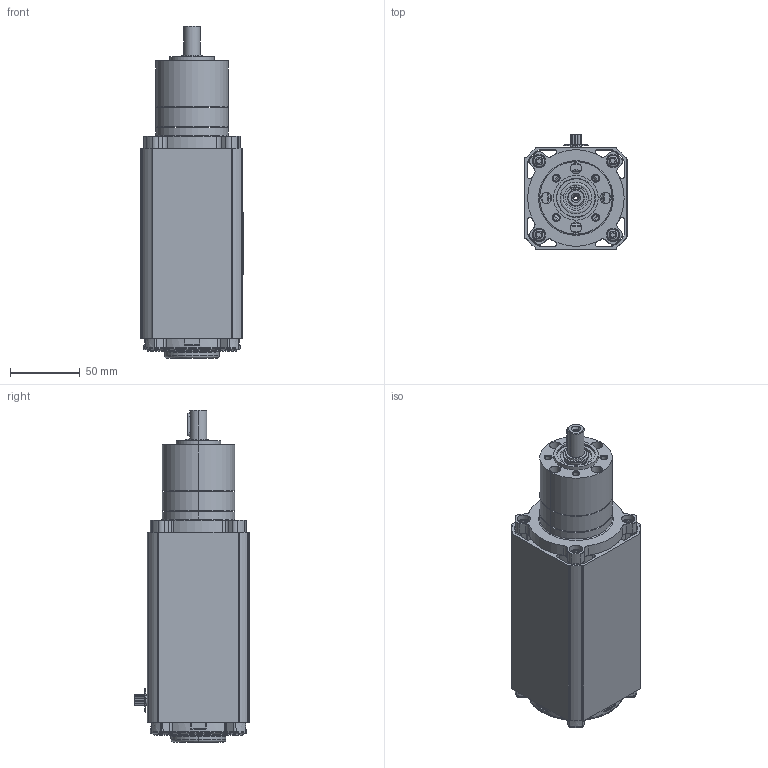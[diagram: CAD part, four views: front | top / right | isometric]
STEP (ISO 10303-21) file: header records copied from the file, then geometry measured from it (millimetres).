
FILE_DESCRIPTION (( 'STEP AP214' ), '1' );
FILE_NAME ('BL6560-PL5200i_1S.STEP', '2013-03-04T15:43:33', ( '' ), ( '' ), 'SwSTEP 2.0', 'SolidWorks 2013', '' );
FILE_SCHEMA (( 'AUTOMOTIVE_DESIGN' ));
Length unit declared in the file: inch
Products named in the file (1): BL6560-PL5200i_1S
Bounding box: 73.36 x 82.37 x 238.25 mm (x, y, z)
Surface area: 117707.4 mm2 (no closed solid volume)
Topology: 0 solids, 57 shells, 910 faces, 3148 edges, 2237 vertices
Faces by surface type: cylinder 379, plane 263, torus 100, cone 95, bspline 66, sphere 7
Entity records: 51039 total; most frequent: CARTESIAN_POINT 12653, DIRECTION 5607, ORIENTED_EDGE 5091, EDGE_CURVE 3143, VERTEX_POINT 2237, AXIS2_PLACEMENT_3D 2117, VECTOR 1373, LINE 1373
